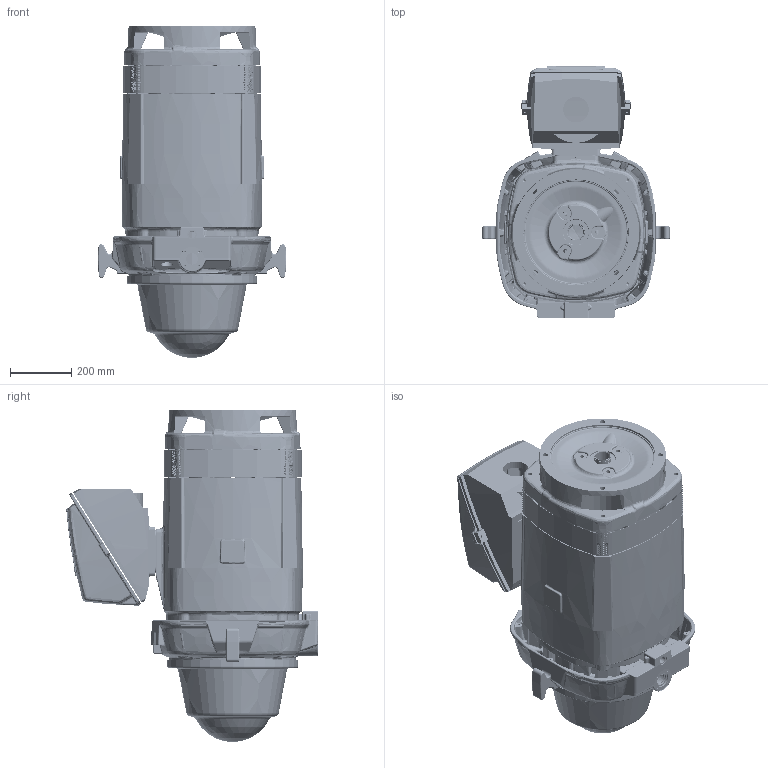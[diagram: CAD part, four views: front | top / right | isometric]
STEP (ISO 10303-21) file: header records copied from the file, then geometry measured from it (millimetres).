
FILE_DESCRIPTION((''),'2;1');
FILE_NAME('400_RU_165_BD_CI_1300_CUI_ASM','2019-10-09T14:57:21',('NMC2304'),('Nidec Motor Corporation'),'CREO PARAMETRIC BY PTC INC, 2018020','CREO PARAMETRIC BY PTC INC, 2018020','');
FILE_SCHEMA(('CONFIG_CONTROL_DESIGN'));
Products named in the file (15): 2076247; 2086727-000; 0989207; 2086727_ASM; 2081286; 0744673; 0188680; 0988193; 0989210; 2016836-001; 0707100; 0441434; 0189738-OBB; 0189734; 400_RU_165_BD_CI_1300_CUI_ASM
Assembly tree (14 placements, depth 3):
  400_RU_165_BD_CI_1300_CUI_ASM
    2076247
    2086727_ASM
      2086727-000
      0989207
    2081286
    0744673
    0188680
    0988193
    0989210
    2016836-001
    0707100
    0441434
    0189738-OBB
    0189734
Bounding box: 612.39 x 823.51 x 1081.68 mm (x, y, z)
Volume: 31027575.5 mm3; surface area: 6945967.8 mm2
Topology: 13 solids, 57 shells, 8015 faces, 19868 edges, 11901 vertices
Faces by surface type: bspline 3864, cylinder 1424, plane 1073, torus 718, cone 443, sphere 285, extrusion 198, revolution 10
Entity records: 374776 total; most frequent: CARTESIAN_POINT 212471, ORIENTED_EDGE 39432, DIRECTION 25192, EDGE_CURVE 19804, VERTEX_POINT 11901, AXIS2_PLACEMENT_3D 10325, B_SPLINE_CURVE_WITH_KNOTS 9341, EDGE_LOOP 8694
